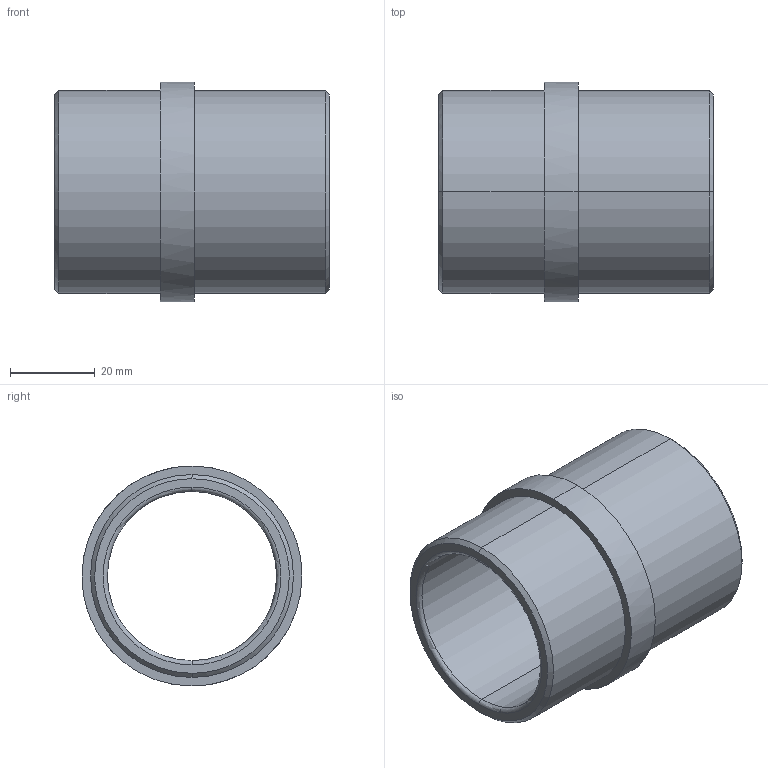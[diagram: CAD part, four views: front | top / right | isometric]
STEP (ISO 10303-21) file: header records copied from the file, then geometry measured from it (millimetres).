
FILE_DESCRIPTION(('CATIA V5 STEP Exchange'),'2;1');
FILE_NAME('C:\Users\Utente\Desktop\IO LAVORO\3D X SITO CF\X SITO\PLASTICA\354\354-40X65.stp','2021-04-21T08:44:08+00:00',('none'),('none'),'CATIA Version 5 Release 20 GA (IN-10)','CATIA V5 STEP AP203','none');
FILE_SCHEMA(('CONFIG_CONTROL_DESIGN'));
Length unit declared in the file: millimetre
Products named in the file (1): 354-40X65
Bounding box: 65 x 52 x 52 mm (x, y, z)
Volume: 38249.9 mm3; surface area: 19518.3 mm2
Topology: 1 solids, 1 shells, 20 faces, 64 edges, 48 vertices
Faces by surface type: cylinder 8, plane 4, cone 4, torus 4
Entity records: 906 total; most frequent: CARTESIAN_POINT 301, ORIENTED_EDGE 128, DIRECTION 92, EDGE_CURVE 64, AXIS2_PLACEMENT_3D 61, VERTEX_POINT 48, CIRCLE 40, EDGE_LOOP 24
